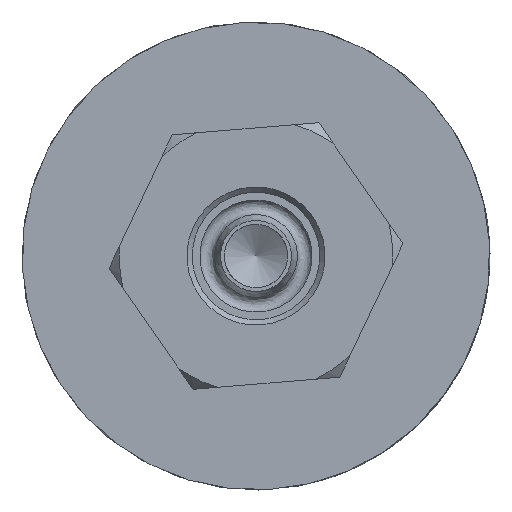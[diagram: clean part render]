
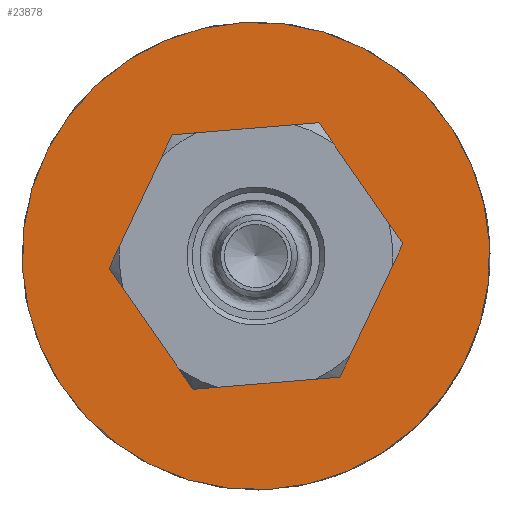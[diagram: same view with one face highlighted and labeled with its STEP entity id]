
A CAD part, front view. The second image highlights one B-rep face of the part: STEP entity #23878.
In plain terms, the highlighted planar face has unit normal (0, -1, 0).
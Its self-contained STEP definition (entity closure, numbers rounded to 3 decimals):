
#23589=CARTESIAN_POINT('',(4.091,-24.041,0.0));
#23590=VERTEX_POINT('',#23589);
#23591=CARTESIAN_POINT('',(-0.066,-24.041,0.0));
#23592=DIRECTION('',(0.0,-1.0,0.0));
#23593=DIRECTION('',(1.0,0.0,0.0));
#23594=AXIS2_PLACEMENT_3D('',#23591,#23592,#23593);
#23595=CIRCLE('',#23594,4.157);
#23596=EDGE_CURVE('',#23590,#23590,#23595,.T.);
#23852=CARTESIAN_POINT('',(8.641,-24.041,0.0));
#23853=VERTEX_POINT('',#23852);
#23854=CARTESIAN_POINT('',(-0.066,-24.041,0.0));
#23855=DIRECTION('',(0.0,-1.0,0.0));
#23856=DIRECTION('',(1.0,0.0,0.0));
#23857=AXIS2_PLACEMENT_3D('',#23854,#23855,#23856);
#23858=CIRCLE('',#23857,8.707);
#23859=EDGE_CURVE('',#23853,#23853,#23858,.T.);
#23867=CARTESIAN_POINT('',(6.366,-24.041,0.0));
#23868=DIRECTION('',(0.0,-1.0,0.0));
#23869=DIRECTION('',(0.0,0.0,-1.0));
#23870=AXIS2_PLACEMENT_3D('',#23867,#23868,#23869);
#23871=PLANE('',#23870);
#23872=ORIENTED_EDGE('',*,*,#23859,.T.);
#23873=EDGE_LOOP('',(#23872));
#23874=FACE_OUTER_BOUND('',#23873,.T.);
#23875=ORIENTED_EDGE('',*,*,#23596,.F.);
#23876=EDGE_LOOP('',(#23875));
#23877=FACE_BOUND('',#23876,.T.);
#23878=ADVANCED_FACE('',(#23874,#23877),#23871,.T.);
